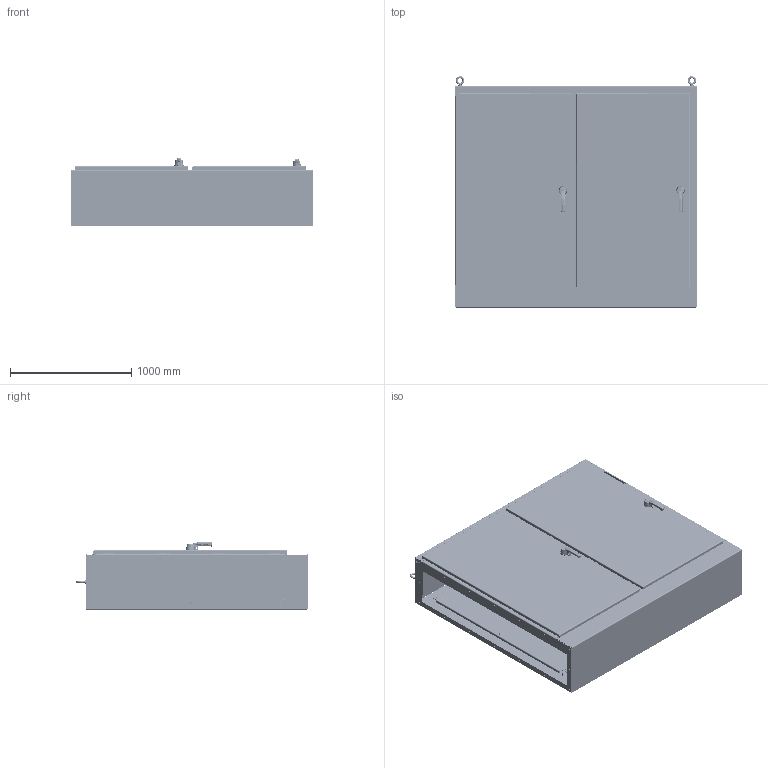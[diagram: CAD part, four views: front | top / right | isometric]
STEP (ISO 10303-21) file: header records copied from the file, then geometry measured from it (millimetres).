
FILE_DESCRIPTION (( 'STEP AP203' ), '1' );
FILE_NAME ('amod72x7818ftc.STEP', '2017-04-05T19:58:16', ( '' ), ( '' ), 'SwSTEP 2.0', 'SolidWorks 2014', '' );
FILE_SCHEMA (( 'CONFIG_CONTROL_DESIGN' ));
Length unit declared in the file: inch
Products named in the file (121): 11158975; 27439002_27439002; 89086144; 99417124; 87544899; 11258825; 30185001; 89106811; 30144002; 22318001; 11158979; 60127199_60127199; 89093883; 99404252; 30175001; 11158976; 27156001; 89086134; 30131005; 22101014; 99404397_AFTER WELD; 30185002; 99411273_99411273; 30130003; 89086635; 30176001_EXTENDED .81; 89085847; 89086185; 30231005; 89052002_89052002; 11158974; 27151001; 89093856; 22155004; 35131001_35131001; 87924697; 22101003; 89121292_SETTING 3; 89093861; 87401709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
Assembly tree (230 placements, depth 5):
  amod72x7818ftc
    89093883
      89093877
        89093871
          89093861
        89086073
          89086088
          99404177_Config-Drawing  x2
        89086169
        11258825  x2
        99404397_AFTER WELD  x10
        87924697  x2
      89086134
        89086144
        99404177_Config-Drawing  x2
      89093866
        89093856
        11258024_11258024
        22112001_AFTER WELD  x3
      89086176
        89086180
        89085504
        11158975  x2
        11158976  x2
        11158974  x2
        11158977  x8
        99404177_Config-Drawing  x4
      30247001  x2
      26108002  x2
      89106531  x2
      99415273_Hex Nut  x2
    89086200
      89086190
        89086185
        99404177_Config-Drawing
        24110001  x2
        26173001
        99411910_Config-Drawing  x2
        89085464_60127101  x4
      23418001
      22318001  x2
      89086635
      26274015_26274015  x2
        26273015_26273015
        30101003
        27115001
        22318002
      89121292_SETTING 3  x2
        89106810
        89106811
        99411273_99411273
      26118002_26118002  x2
      27439101_27439101
      99401300_99401300  x2
      35130001_SI-HHMS 0.25-28x0.375x0.375-N  x2
      89087372_35124003
      87544899
      22101014
      35131001_35131001
    89086205
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Bounding box: 1993.9 x 1912.52 x 558.82 mm (x, y, z)
Volume: 46930342.8 mm3; surface area: 30799422 mm2
Topology: 270 solids, 273 shells, 15921 faces, 37813 edges, 22580 vertices
Faces by surface type: plane 5883, cylinder 4593, cone 2255, bspline 1942, torus 1095, sphere 153
Entity records: 304036 total; most frequent: CARTESIAN_POINT 125348, ORIENTED_EDGE 34512, DIRECTION 33204, EDGE_CURVE 17257, AXIS2_PLACEMENT_3D 12572, VERTEX_POINT 10222, VECTOR 8060, LINE 8060
